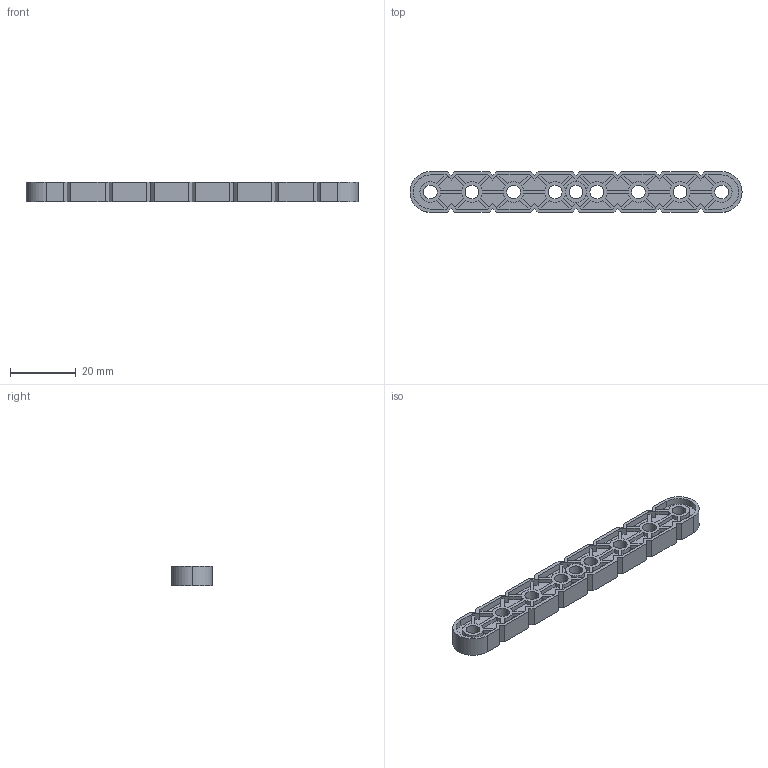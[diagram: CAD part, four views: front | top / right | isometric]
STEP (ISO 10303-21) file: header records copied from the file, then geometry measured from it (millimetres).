
FILE_DESCRIPTION (( 'STEP AP214' ), '1' );
FILE_NAME ('228-2500-007.STEP', '2021-02-18T18:43:32', ( '' ), ( '' ), 'SwSTEP 2.0', 'SolidWorks 2019', '' );
FILE_SCHEMA (( 'AUTOMOTIVE_DESIGN' ));
Length unit declared in the file: millimetre
Products named in the file (1): 228-2500-007
Bounding box: 101.3 x 12.4 x 6.1 mm (x, y, z)
Volume: 3891.4 mm3; surface area: 6062.9 mm2
Topology: 1 solids, 1 shells, 453 faces, 1347 edges, 898 vertices
Faces by surface type: plane 336, cylinder 117
Entity records: 15165 total; most frequent: CARTESIAN_POINT 2699, ORIENTED_EDGE 2694, DIRECTION 2489, EDGE_CURVE 1347, LINE 1113, VECTOR 1113, VERTEX_POINT 898, AXIS2_PLACEMENT_3D 688
